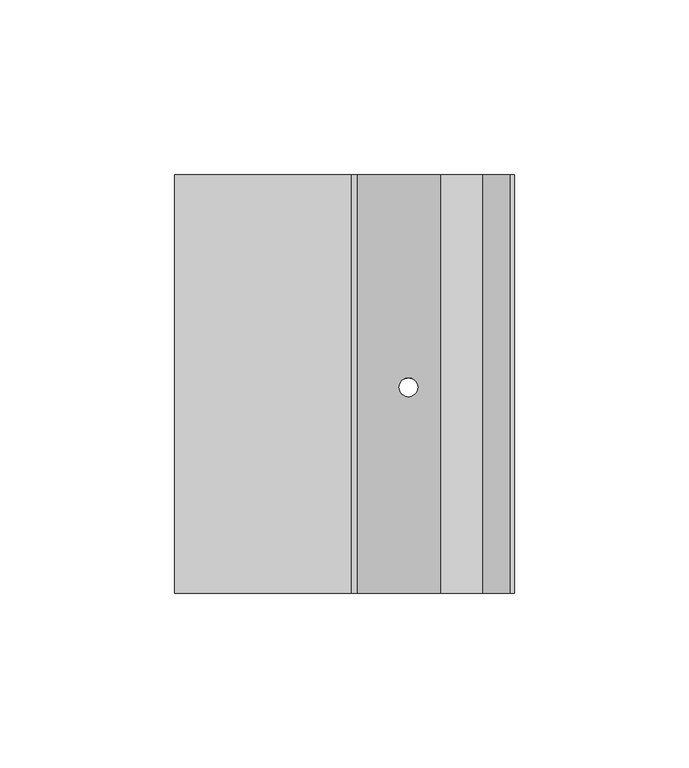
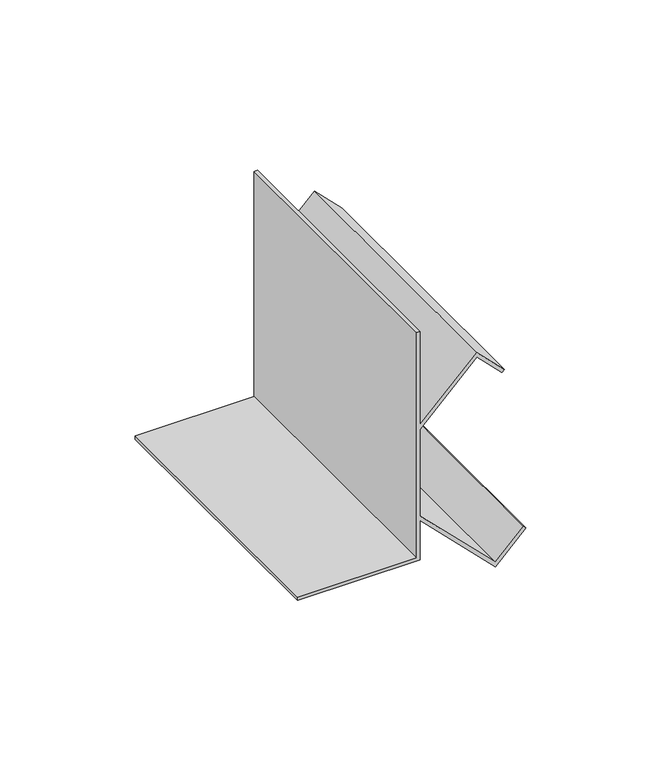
"""IFC4 building model written with IfcOpenShell, lengths in millimetres: proxy geometry, Mechanical Fittings & Accessories38 : Mechanical Fittings & Accessories."""

from ifc_helpers import new_model, si_unit, frame, origin, place, context, project, spatial, polyline, ellipse_curve, source, transform, mapped, element, save
from ifc_brep_helpers import plane_surface, revolved_surface, advanced_brep


def generic_models_f5dd13b4(model_context):
    return source(origin(), model_context, "Body", "AdvancedBrep", [
        advanced_brep(
        [(-14670.9639562, 9537.4963986, 4114.8), (-14721.7639562, 9537.4963986, 4114.8), (-14721.7639562, 9537.4963986, 4113.3117188), (-14669.475675, 9537.4963986, 4113.3117188), (-14669.475675, 9537.4963986, 4131.1383509), (-14637.365914, 9537.4963986, 4099.0285899), (-14624.3869427, 9537.4963986, 4112.0075612), (-14625.4393164, 9537.4963986, 4113.059935), (-14637.365914, 9537.4963986, 4101.1333374), (-14669.475675, 9537.4963986, 4133.2430984), (-14669.475675, 9537.4963986, 4172.2761118), (-14645.303414, 9537.4963986, 4196.4483729), (-14634.5674414, 9537.4963986, 4185.7124003), (-14633.5150677, 9537.4963986, 4186.7647741), (-14645.303414, 9537.4963986, 4198.5531204), (-14669.475675, 9537.4963986, 4174.3808594), (-14669.475675, 9537.4963986, 4216.4), (-14670.9639562, 9537.4963986, 4216.4), (-14670.9639562, 9657.4645457, 4114.8), (-14670.9639562, 9657.4645457, 4216.4), (-14669.475675, 9657.4645457, 4216.4), (-14669.475675, 9657.4645457, 4174.3808594), (-14645.303414, 9657.4645457, 4198.5531204), (-14633.5150677, 9657.4645457, 4186.7647741), (-14634.5674414, 9657.4645457, 4185.7124003), (-14645.303414, 9657.4645457, 4196.4483729), (-14669.475675, 9657.4645457, 4172.2761118), (-14669.475675, 9657.4645457, 4133.2430984), (-14637.365914, 9657.4645457, 4101.1333374), (-14625.4393164, 9657.4645457, 4113.059935), (-14624.3869427, 9657.4645457, 4112.0075612), (-14637.365914, 9657.4645457, 4099.0285899), (-14669.475675, 9657.4645457, 4131.1383509), (-14669.475675, 9657.4645457, 4113.3117188), (-14721.7639562, 9657.4645457, 4113.3117188), (-14721.7639562, 9657.4645457, 4114.8), (-14657.3617646, 9596.5191481, 4119.0244406), (-14652.0223978, 9596.5191481, 4113.6850737), (-14652.0223978, 9596.5191481, 4115.7898213), (-14657.3617646, 9596.5191481, 4121.1291881), (-14657.3617646, 9596.5191481, 4184.3900222), (-14652.0223978, 9596.5191481, 4189.729389), (-14652.0223978, 9596.5191481, 4191.8341365), (-14657.3617646, 9596.5191481, 4186.4947697)],
        [
            (0, 1),
            (1, 2),
            (2, 3),
            (3, 4),
            (4, 5),
            (5, 6),
            (6, 7),
            (7, 8),
            (8, 9),
            (9, 10),
            (10, 11),
            (11, 12),
            (12, 13),
            (13, 14),
            (14, 15),
            (15, 16),
            (16, 17),
            (17, 0),
            (18, 19),
            (19, 20),
            (20, 21),
            (21, 22),
            (22, 23),
            (23, 24),
            (24, 25),
            (25, 26),
            (26, 27),
            (27, 28),
            (28, 29),
            (29, 30),
            (30, 31),
            (31, 32),
            (32, 33),
            (33, 34),
            (34, 35),
            (35, 18),
            (0, 18),
            (35, 1),
            (34, 2),
            (33, 3),
            (32, 4),
            (31, 5),
            (36, 37, ellipse_curve(frame((-14654.6920812, 9596.5191481, 4116.3547571), z_axis=(0.7071067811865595, 0.0, 0.7071067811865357), x_axis=(-0.7071067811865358, 0.0, 0.7071067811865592)), 3.7755025, 2.6696834)),
            (37, 36, ellipse_curve(frame((-14654.6920812, 9596.5191481, 4116.3547571), z_axis=(0.7071067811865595, 0.0, 0.7071067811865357), x_axis=(-0.7071067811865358, 0.0, 0.7071067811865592)), 3.7755025, 2.6696834)),
            (30, 6),
            (29, 7),
            (28, 8),
            (27, 9),
            (38, 39, ellipse_curve(frame((-14654.6920812, 9596.5191481, 4118.4595047), z_axis=(-0.7071067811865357, 0.0, -0.7071067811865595), x_axis=(-0.7071067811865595, 0.0, 0.7071067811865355)), 3.7755025, 2.6696834)),
            (39, 38, ellipse_curve(frame((-14654.6920812, 9596.5191481, 4118.4595047), z_axis=(-0.7071067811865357, 0.0, -0.7071067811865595), x_axis=(-0.7071067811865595, 0.0, 0.7071067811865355)), 3.7755025, 2.6696834)),
            (26, 10),
            (25, 11),
            (40, 41, ellipse_curve(frame((-14654.6920812, 9596.5191481, 4187.0597056), z_axis=(-0.7071067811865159, 0.0, 0.7071067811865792), x_axis=(0.7071067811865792, 0.0, 0.7071067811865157)), 3.7755025, 2.6696834)),
            (41, 40, ellipse_curve(frame((-14654.6920812, 9596.5191481, 4187.0597056), z_axis=(-0.7071067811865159, 0.0, 0.7071067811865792), x_axis=(0.7071067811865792, 0.0, 0.7071067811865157)), 3.7755025, 2.6696834)),
            (24, 12),
            (23, 13),
            (22, 14),
            (21, 15),
            (42, 43, ellipse_curve(frame((-14654.6920812, 9596.5191481, 4189.1644531), z_axis=(0.7071067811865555, 0.0, -0.7071067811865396), x_axis=(0.7071067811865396, 0.0, 0.7071067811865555)), 3.7755025, 2.6696834)),
            (43, 42, ellipse_curve(frame((-14654.6920812, 9596.5191481, 4189.1644531), z_axis=(0.7071067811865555, 0.0, -0.7071067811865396), x_axis=(0.7071067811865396, 0.0, 0.7071067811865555)), 3.7755025, 2.6696834)),
            (20, 16),
            (19, 17),
            (36, 39),
            (38, 37),
            (40, 43),
            (42, 41),
        ],
        [
            plane_surface(frame((-14721.7639562, 9537.4963986, 4114.8), z_axis=(0.0, -1.0, 0.0), x_axis=(-1.0, 0.0, 0.0))),
            plane_surface(frame((-14721.7639562, 9657.4645457, 4114.8), z_axis=(0.0, 1.0, 0.0), x_axis=(1.0, 0.0, 0.0))),
            plane_surface(frame((-14670.9639562, 9537.4963986, 4114.8), z_axis=(0.0, 0.0, 1.0), x_axis=(0.0, 1.0, 0.0))),
            plane_surface(frame((-14721.7639562, 9537.4963986, 4114.8), z_axis=(-1.0, 0.0, 0.0), x_axis=(0.0, 1.0, 0.0))),
            plane_surface(frame((-14721.7639562, 9537.4963986, 4113.3117188), z_axis=(0.0, 0.0, -1.0), x_axis=(0.0, 1.0, 0.0))),
            plane_surface(frame((-14669.475675, 9537.4963986, 4113.3117188), z_axis=(1.0, 0.0, 0.0), x_axis=(0.0, 1.0, 0.0))),
            plane_surface(frame((-14669.475675, 9537.4963986, 4131.1383509), z_axis=(-0.7071067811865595, 0.0, -0.7071067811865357), x_axis=(0.0, 1.0, 0.0))),
            plane_surface(frame((-14637.365914, 9537.4963986, 4099.0285899), z_axis=(0.7071067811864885, 0.0, -0.7071067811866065), x_axis=(0.0, 1.0, 0.0))),
            plane_surface(frame((-14624.3869427, 9537.4963986, 4112.0075612), z_axis=(0.7071067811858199, 0.0, 0.7071067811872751), x_axis=(0.0, 1.0, 0.0))),
            plane_surface(frame((-14625.4393164, 9537.4963986, 4113.059935), z_axis=(-0.7071067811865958, 0.0, 0.7071067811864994), x_axis=(0.0, 1.0, 0.0))),
            plane_surface(frame((-14637.365914, 9537.4963986, 4101.1333374), z_axis=(0.7071067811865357, 0.0, 0.7071067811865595), x_axis=(0.0, 1.0, 0.0))),
            plane_surface(frame((-14669.475675, 9537.4963986, 4133.2430984), z_axis=(1.0, 0.0, 0.0), x_axis=(0.0, 1.0, 0.0))),
            plane_surface(frame((-14669.475675, 9537.4963986, 4172.2761118), z_axis=(0.7071067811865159, 0.0, -0.7071067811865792), x_axis=(0.0, 1.0, 0.0))),
            plane_surface(frame((-14645.303414, 9537.4963986, 4196.4483729), z_axis=(-0.7071067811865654, 0.0, -0.7071067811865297), x_axis=(0.0, 1.0, 0.0))),
            plane_surface(frame((-14634.5674414, 9537.4963986, 4185.7124003), z_axis=(0.7071067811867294, 0.0, -0.7071067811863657), x_axis=(0.0, 1.0, 0.0))),
            plane_surface(frame((-14633.5150677, 9537.4963986, 4186.7647741), z_axis=(0.707106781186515, 0.0, 0.70710678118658), x_axis=(0.0, 1.0, 0.0))),
            plane_surface(frame((-14645.303414, 9537.4963986, 4198.5531204), z_axis=(-0.7071067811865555, 0.0, 0.7071067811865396), x_axis=(0.0, 1.0, 0.0))),
            plane_surface(frame((-14669.475675, 9537.4963986, 4174.3808594), z_axis=(1.0, 0.0, 0.0), x_axis=(0.0, 1.0, 0.0))),
            plane_surface(frame((-14669.475675, 9537.4963986, 4216.4), z_axis=(0.0, 0.0, 1.0), x_axis=(0.0, 1.0, 0.0))),
            plane_surface(frame((-14670.9639562, 9537.4963986, 4216.4), z_axis=(-1.0, 0.0, 0.0), x_axis=(0.0, 1.0, 0.0))),
            revolved_surface(polyline([(-14652.022397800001, 9596.5191481, 4121.129188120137), (-14652.022397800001, 9596.5191481, 4113.685073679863)]), (-14654.6920812, 9596.5191481, 4097.2034211), (0.0, 0.0, 1.0)),
            revolved_surface(polyline([(-14652.022397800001, 9596.5191481, 4191.834136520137), (-14652.022397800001, 9596.5191481, 4184.390022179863)]), (-14654.6920812, 9596.5191481, 4097.2034211), (0.0, 0.0, 1.0)),
        ],
        [
            (0, [[1, 2, 3, 4, 5, 6, 7, 8, 9, 10, 11, 12, 13, 14, 15, 16, 17, 18]]),
            (1, [[19, 20, 21, 22, 23, 24, 25, 26, 27, 28, 29, 30, 31, 32, 33, 34, 35, 36]]),
            (2, [[-1, 37, -36, 38]]),
            (3, [[-2, -38, -35, 39]]),
            (4, [[-3, -39, -34, 40]]),
            (5, [[-4, -40, -33, 41]]),
            (6, [[-5, -41, -32, 42], [43, 44]]),
            (7, [[-6, -42, -31, 45]]),
            (8, [[-7, -45, -30, 46]]),
            (9, [[-8, -46, -29, 47]]),
            (10, [[-9, -47, -28, 48], [49, 50]]),
            (11, [[-10, -48, -27, 51]]),
            (12, [[-11, -51, -26, 52], [53, 54]]),
            (13, [[-12, -52, -25, 55]]),
            (14, [[-13, -55, -24, 56]]),
            (15, [[-14, -56, -23, 57]]),
            (16, [[-15, -57, -22, 58], [59, 60]]),
            (17, [[-16, -58, -21, 61]]),
            (18, [[-17, -61, -20, 62]]),
            (19, [[-18, -62, -19, -37]]),
            (20, [[63, -49, 64, -43]]),
            (21, [[65, -59, 66, -53]]),
            (20, [[-63, -44, -64, -50]]),
            (21, [[-65, -54, -66, -60]]),
        ],
    ),
    ])


if __name__ == "__main__":
    model = new_model("IFC4")
    model_context = context("Model", 3, world=origin())
    ifc_project = project(units=[si_unit("LENGTHUNIT", "METRE", prefix="MILLI")], contexts=[model_context])
    site = spatial("IfcSite", under=ifc_project)
    building = spatial("IfcBuilding", under=site)
    placement = place(None, origin())
    generic_models_shape = generic_models_f5dd13b4(model_context)
    element("IfcBuildingElementProxy", 1, Name="Mechanical Fittings & Accessories38 : Mechanical Fittings & Accessories", ObjectType="Mechanical Fittings & Accessories38 : Mechanical Fittings & Accessories", at=placement, inside=building, context=model_context, shape_type="MappedRepresentation", body=[
        mapped(generic_models_shape, transform((0.0, 0.0, 0.0), x_axis=(1.0, 0.0, 0.0), y_axis=(0.0, 1.0, 0.0), z_axis=(0.0, 0.0, 1.0))),
    ])
    save(model, "model.ifc")
